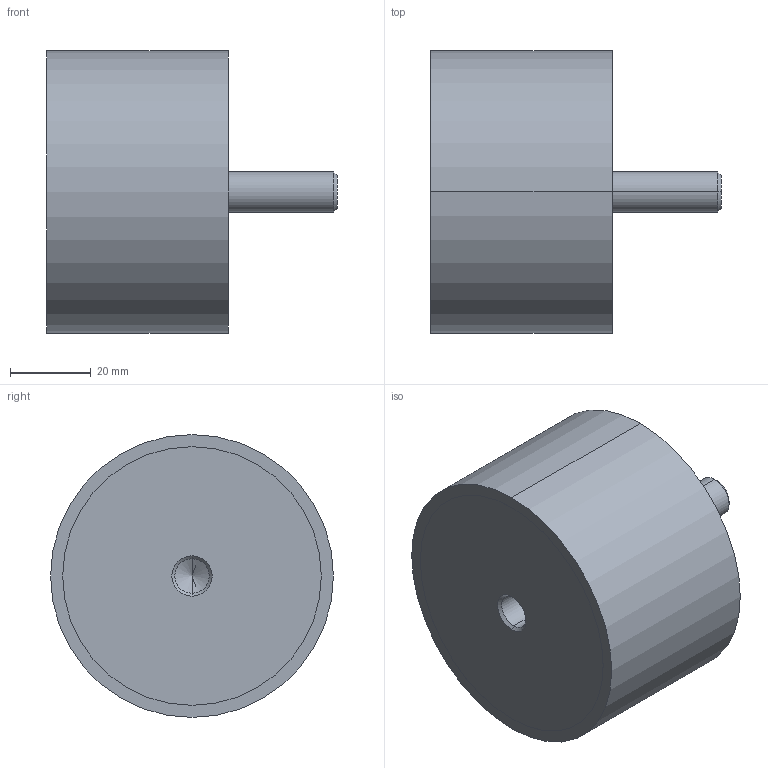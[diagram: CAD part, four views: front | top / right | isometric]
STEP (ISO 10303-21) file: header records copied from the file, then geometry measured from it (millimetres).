
FILE_DESCRIPTION (( 'STEP AP214' ), '1' );
FILE_NAME ('351-70-45-M10-ES-70.step', '2025-07-23T09:43:31', ( '' ), ( '' ), 'SwSTEP 2.0', 'SolidWorks 2022', '' );
FILE_SCHEMA (( 'AUTOMOTIVE_DESIGN' ));
Length unit declared in the file: millimetre
Products named in the file (1): 351-70-45-M10-ES-70
Bounding box: 72 x 70 x 70 mm (x, y, z)
Volume: 174536.8 mm3; surface area: 18722.9 mm2
Topology: 1 solids, 1 shells, 24 faces, 48 edges, 29 vertices
Faces by surface type: cylinder 12, cone 6, plane 6
Entity records: 740 total; most frequent: DIRECTION 124, CARTESIAN_POINT 100, ORIENTED_EDGE 92, AXIS2_PLACEMENT_3D 53, EDGE_CURVE 46, VERTEX_POINT 29, EDGE_LOOP 29, CIRCLE 28
